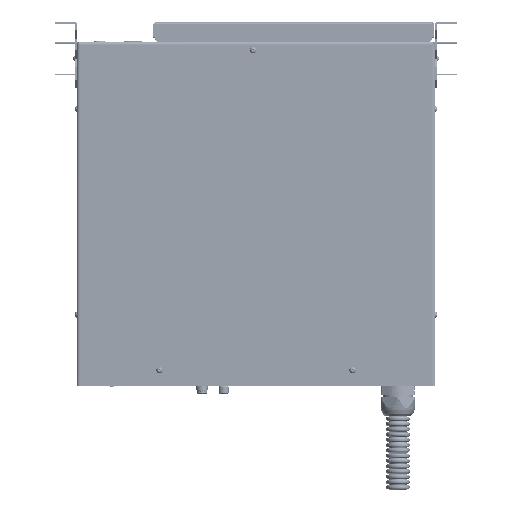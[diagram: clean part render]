
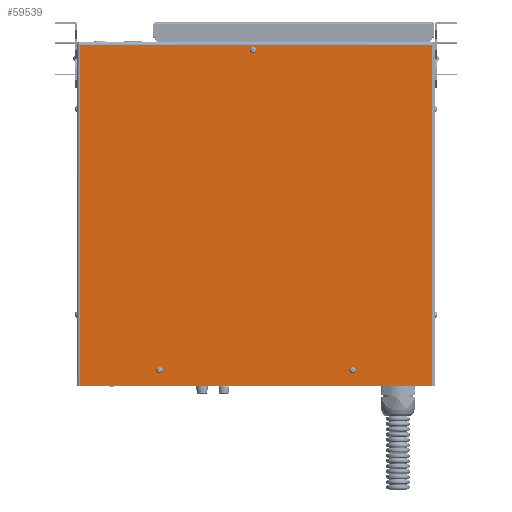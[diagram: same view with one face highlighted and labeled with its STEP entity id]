
A CAD part, top view. The second image highlights one B-rep face of the part: STEP entity #59539.
In plain terms, the highlighted planar face has unit normal (0, 0, 1).
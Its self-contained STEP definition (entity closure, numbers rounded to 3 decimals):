
#49601=FACE_BOUND('',#77663,.T.);
#49602=FACE_BOUND('',#77664,.T.);
#49603=FACE_BOUND('',#77665,.T.);
#49604=FACE_BOUND('',#77666,.T.);
#55057=CIRCLE('',#175461,3.8);
#55058=CIRCLE('',#175462,3.8);
#55059=CIRCLE('',#175463,3.8);
#59539=ADVANCED_FACE('',(#49601,#49602,#49603,#49604),#66943,.F.);
#66943=PLANE('',#175464);
#77663=EDGE_LOOP('',(#87627));
#77664=EDGE_LOOP('',(#87628));
#77665=EDGE_LOOP('',(#87629));
#77666=EDGE_LOOP('',(#87630,#87631,#87632,#87633));
#87627=ORIENTED_EDGE('',*,*,#134424,.T.);
#87628=ORIENTED_EDGE('',*,*,#134425,.T.);
#87629=ORIENTED_EDGE('',*,*,#134426,.T.);
#87630=ORIENTED_EDGE('',*,*,#134427,.F.);
#87631=ORIENTED_EDGE('',*,*,#134428,.T.);
#87632=ORIENTED_EDGE('',*,*,#134421,.F.);
#87633=ORIENTED_EDGE('',*,*,#134429,.T.);
#122509=VERTEX_POINT('',#223323);
#122510=VERTEX_POINT('',#223325);
#122511=VERTEX_POINT('',#223330);
#122512=VERTEX_POINT('',#223332);
#122513=VERTEX_POINT('',#223334);
#122514=VERTEX_POINT('',#223336);
#122515=VERTEX_POINT('',#223337);
#134421=EDGE_CURVE('',#122509,#122510,#151865,.T.);
#134424=EDGE_CURVE('',#122511,#122511,#55057,.T.);
#134425=EDGE_CURVE('',#122512,#122512,#55058,.T.);
#134426=EDGE_CURVE('',#122513,#122513,#55059,.T.);
#134427=EDGE_CURVE('',#122514,#122515,#151867,.T.);
#134428=EDGE_CURVE('',#122514,#122510,#151868,.T.);
#134429=EDGE_CURVE('',#122509,#122515,#151869,.T.);
#151865=LINE('',#223324,#163686);
#151867=LINE('',#223335,#163688);
#151868=LINE('',#223338,#163689);
#151869=LINE('',#223339,#163690);
#163686=VECTOR('',#187657,1.);
#163688=VECTOR('',#187669,1.);
#163689=VECTOR('',#187670,1.);
#163690=VECTOR('',#187671,1.);
#175461=AXIS2_PLACEMENT_3D('',#223329,#187663,#187664);
#175462=AXIS2_PLACEMENT_3D('',#223331,#187665,#187666);
#175463=AXIS2_PLACEMENT_3D('',#223333,#187667,#187668);
#175464=AXIS2_PLACEMENT_3D('',#223340,#187672,#187673);
#187657=DIRECTION('',(-1.,0.,0.));
#187663=DIRECTION('',(0.,0.,-1.));
#187664=DIRECTION('',(-1.,0.,0.));
#187665=DIRECTION('',(0.,0.,-1.));
#187666=DIRECTION('',(-1.,0.,0.));
#187667=DIRECTION('',(0.,0.,-1.));
#187668=DIRECTION('',(-1.,0.,0.));
#187669=DIRECTION('',(1.,0.,0.));
#187670=DIRECTION('',(0.,-1.,0.));
#187671=DIRECTION('',(0.,1.,0.));
#187672=DIRECTION('',(0.,0.,-1.));
#187673=DIRECTION('',(1.,0.,0.));
#223323=CARTESIAN_POINT('',(426.432,-0.597,165.635));
#223324=CARTESIAN_POINT('',(429.932,-0.597,165.635));
#223325=CARTESIAN_POINT('',(6.432,-0.597,165.635));
#223329=CARTESIAN_POINT('',(212.832,399.203,165.635));
#223330=CARTESIAN_POINT('',(209.032,399.203,165.635));
#223331=CARTESIAN_POINT('',(101.432,17.903,165.635));
#223332=CARTESIAN_POINT('',(97.632,17.903,165.635));
#223333=CARTESIAN_POINT('',(331.432,17.903,165.635));
#223334=CARTESIAN_POINT('',(327.632,17.903,165.635));
#223335=CARTESIAN_POINT('',(2.932,405.903,165.635));
#223336=CARTESIAN_POINT('',(6.432,405.903,165.635));
#223337=CARTESIAN_POINT('',(426.432,405.903,165.635));
#223338=CARTESIAN_POINT('',(6.432,409.403,165.635));
#223339=CARTESIAN_POINT('',(426.432,-0.597,165.635));
#223340=CARTESIAN_POINT('',(2.932,409.403,165.635));
